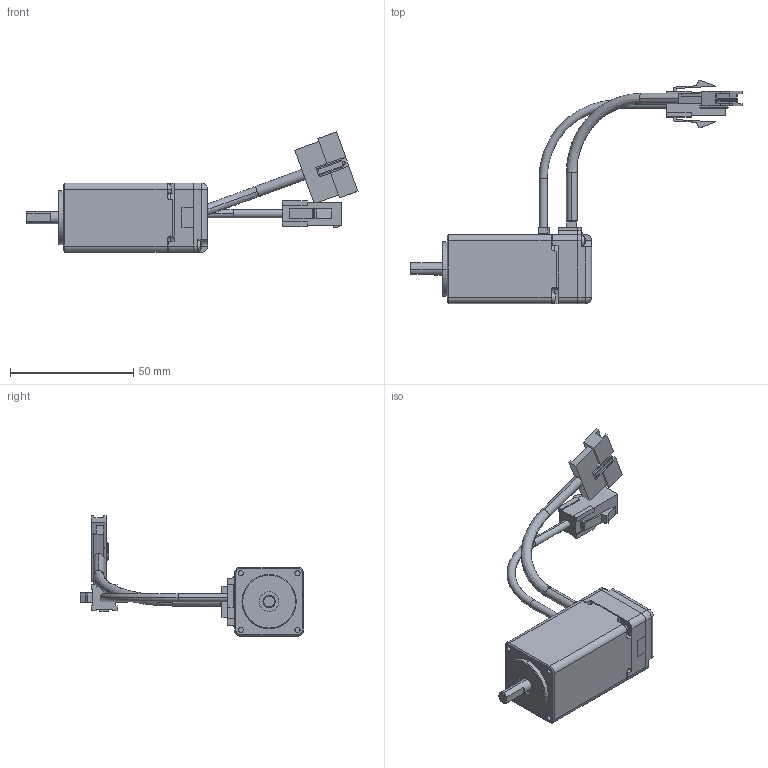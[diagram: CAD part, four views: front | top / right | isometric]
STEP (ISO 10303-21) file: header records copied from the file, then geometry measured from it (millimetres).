
FILE_DESCRIPTION (( 'STEP AP203' ), '1' );
FILE_NAME ('P11-MO-028-06-R02.STEP', '2015-06-29T07:49:14', ( '' ), ( '' ), 'SwSTEP 2.0', 'SolidWorks 2013', '' );
FILE_SCHEMA (( 'CONFIG_CONTROL_DESIGN' ));
Length unit declared in the file: millimetre
Products named in the file (10): 20陝 PCB_ル遽; 葆斜啻す 縛囀渦_ル遽; round cross head screw_ks_KS 1023 RC - M2.5 x 12-N; 20阿 浚内歹 纳捞喉急_钎霖; SM-28L-R00; M41-EC-028-02-R01_ル遽; M11-MO-028-02-R01; 20陝 賅攪瞪錳摹_ル遽; P11-MO-028-06-R02; 130115 28mm ENCODER BASE_ル遽
Assembly tree (10 placements, depth 3):
  P11-MO-028-06-R02
    20陝 賅攪瞪錳摹_ル遽
    SM-28L-R00
      130115 28mm ENCODER BASE_ル遽
      20陝 PCB_ル遽
      葆斜啻す 縛囀渦_ル遽
      round cross head screw_ks_KS 1023 RC - M2.5 x 12-N  x2
      20阿 浚内歹 纳捞喉急_钎霖
    M41-EC-028-02-R01_ル遽
    M11-MO-028-02-R01
Bounding box: 134.59 x 90.51 x 48.79 mm (x, y, z)
Volume: 47257 mm3; surface area: 22111.4 mm2
Topology: 9 solids, 9 shells, 634 faces, 1615 edges, 1034 vertices
Faces by surface type: plane 363, cylinder 179, cone 57, bspline 19, torus 10, sphere 6
Entity records: 19766 total; most frequent: CARTESIAN_POINT 3858, DIRECTION 3162, ORIENTED_EDGE 3038, EDGE_CURVE 1519, AXIS2_PLACEMENT_3D 1086, LINE 990, VECTOR 990, VERTEX_POINT 981
